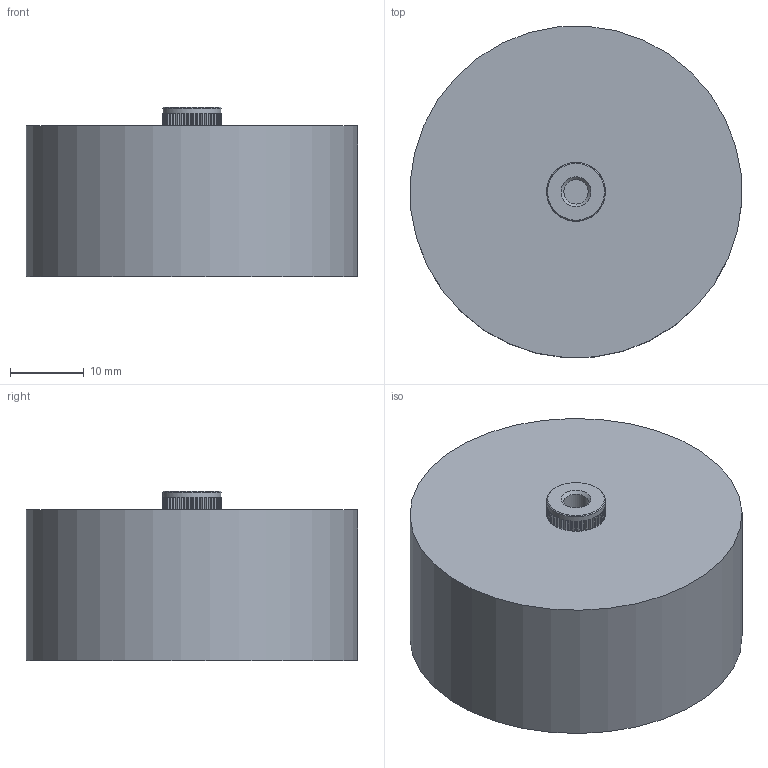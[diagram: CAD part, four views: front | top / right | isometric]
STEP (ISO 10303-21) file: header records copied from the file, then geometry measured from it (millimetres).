
FILE_DESCRIPTION((''),'2;1');
FILE_NAME('I:\Marketing\M6t1\M6T1 - Internal\Drawings\Werk 3\Finished product\Ceramite\Upload for homepage\715\715C###KT###\715C20KTD25.stp','2013-06-10T14:24:31',('sherden'),(''),'Autodesk Inventor 2013','Autodesk Inventor 2013','');
FILE_SCHEMA(('AUTOMOTIVE_DESIGN { 1 2 10303 214 0 1 1 1 }'));
Length unit declared in the file: millimetre
Products named in the file (1): 715C20KTD25
Bounding box: 44.9 x 44.9 x 23 mm (x, y, z)
Volume: 32571.6 mm3; surface area: 6425.9 mm2
Topology: 1 solids, 41 shells, 573 faces, 1419 edges, 932 vertices
Faces by surface type: plane 486, cylinder 84, cone 3
Full cylindrical faces by diameter (mm): 3.302 x2, 7.95 x1, 45 x1
Entity records: 17304 total; most frequent: CARTESIAN_POINT 2916, ORIENTED_EDGE 2822, DIRECTION 2810, EDGE_CURVE 1411, VECTOR 1160, LINE 1160, VERTEX_POINT 931, AXIS2_PLACEMENT_3D 825
